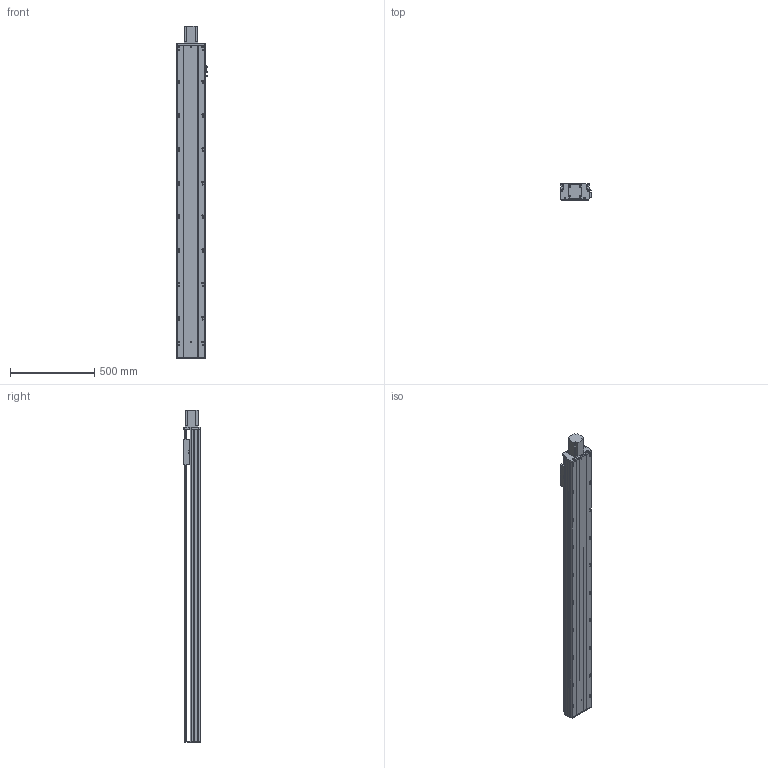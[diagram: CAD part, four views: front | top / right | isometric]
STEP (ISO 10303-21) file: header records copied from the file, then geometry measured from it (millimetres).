
FILE_DESCRIPTION (( 'STEP AP203' ), '1' );
FILE_NAME ('Y170-D10-S1600-BD-P750W.STEP', '2020-01-22T07:20:01', ( '微软用户' ), ( '微软中国' ), 'SwSTEP 2.0', 'SolidWorks 2017', '' );
FILE_SCHEMA (( 'CONFIG_CONTROL_DESIGN' ));
Length unit declared in the file: millimetre
Products named in the file (10): Y170-萇儂楊擘啣--; 135-盓傅釱-FK15; 侂狟750W; Y170耜裔--準---; Y170-陔遴奻裔-BD; Y170--雄赽釱-梓--; YD-Y100-135-新外置传感挡片(通用）; Y170-D10-S1600-BD-P750W; Y100-135俋离換覜ん; 170--掛极-BD
Assembly tree (11 placements, depth 2):
  Y170-D10-S1600-BD-P750W
    YD-Y100-135-新外置传感挡片(通用）
    Y100-135俋离換覜ん  x3
    170--掛极-BD
    Y170-萇儂楊擘啣--
    135-盓傅釱-FK15
    侂狟750W
    Y170耜裔--準---
    Y170-陔遴奻裔-BD
    Y170--雄赽釱-梓--
Bounding box: 183.5 x 97 x 1968.5 mm (x, y, z)
Volume: 8081444.2 mm3; surface area: 2810981.7 mm2
Topology: 11 solids, 11 shells, 864 faces, 2499 edges, 1656 vertices
Faces by surface type: cylinder 474, plane 388, torus 2
Entity records: 28671 total; most frequent: CARTESIAN_POINT 5299, DIRECTION 4745, ORIENTED_EDGE 4662, EDGE_CURVE 2331, AXIS2_PLACEMENT_3D 1718, VERTEX_POINT 1544, LINE 1309, VECTOR 1309
